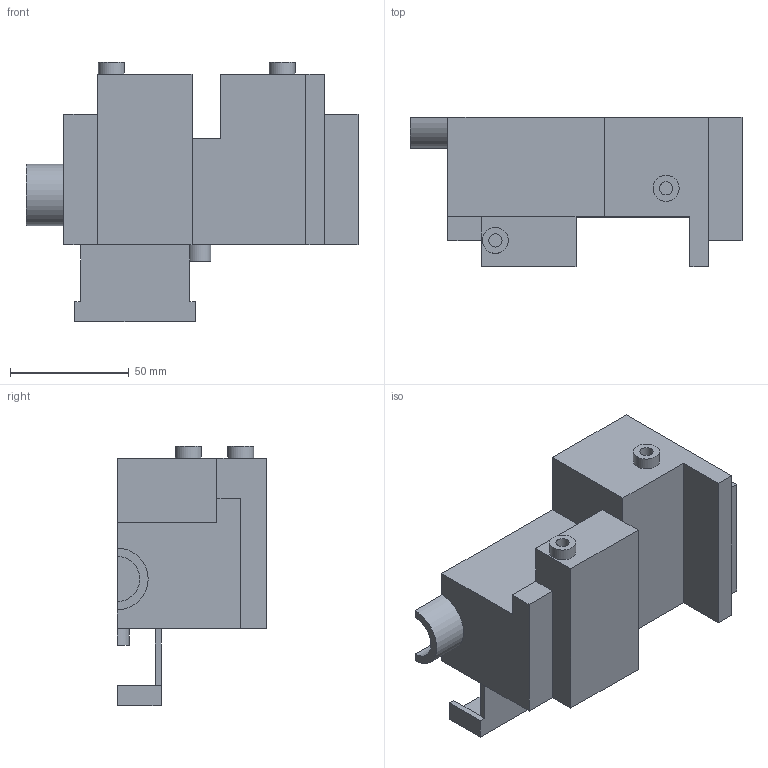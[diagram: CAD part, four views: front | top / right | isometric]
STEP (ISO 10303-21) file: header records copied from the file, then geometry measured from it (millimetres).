
FILE_DESCRIPTION(('Open CASCADE Model'),'2;1');
FILE_NAME('Open CASCADE Shape Model','2026-10-13T15:24:31',('Author'),( 'Open CASCADE'),'Open CASCADE STEP processor 8.0','build123d', 'Unknown');
FILE_SCHEMA(('AUTOMOTIVE_DESIGN { 1 0 10303 214 1 1 1 1 }'));
Length unit declared in the file: millimetre
Products named in the file (1): COMPOUND
Bounding box: 140 x 63 x 109.5 mm (x, y, z)
Volume: 104045.9 mm3; surface area: 85954.3 mm2
Topology: 1 solids, 1 shells, 147 faces, 435 edges, 289 vertices
Faces by surface type: plane 133, cylinder 14
Full cylindrical faces by diameter (mm): 5.6 x2, 11 x2
Entity records: 9950 total; most frequent: CARTESIAN_POINT 2320, DIRECTION 1061, ORIENTED_EDGE 870, PCURVE 870, DEFINITIONAL_REPRESENTATION 870, LINE 683, VECTOR 683, B_SPLINE_CURVE_WITH_KNOTS 566
